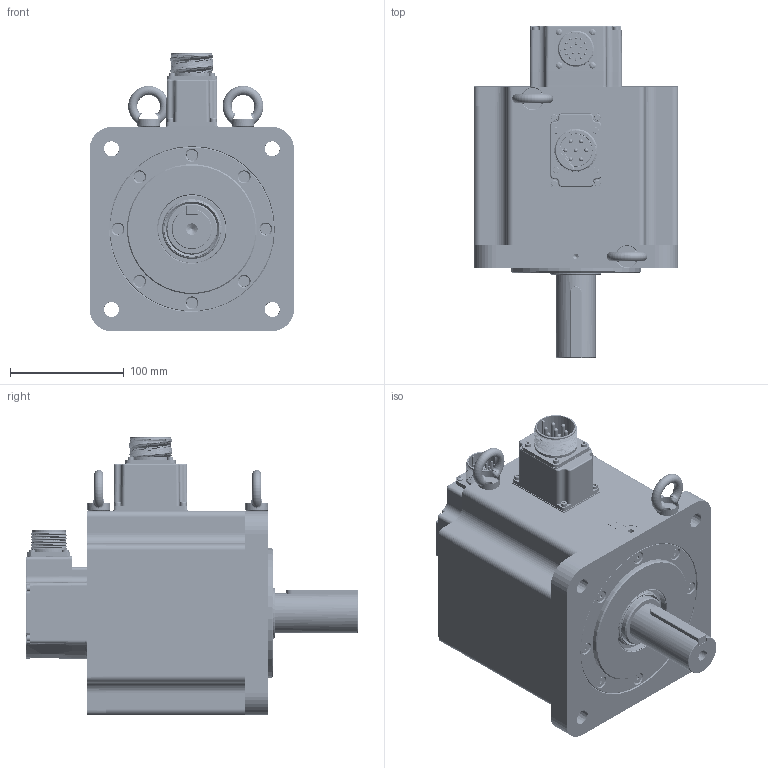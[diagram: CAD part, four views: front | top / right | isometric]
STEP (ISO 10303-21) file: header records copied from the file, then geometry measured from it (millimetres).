
FILE_DESCRIPTION(/* description */ ('AdapterTestApp'),/* implementation_level */ '2;1');
FILE_NAME(/* name */ 'TCE180 6B XX 3 A1 0 C3',/* time_stamp */ '2015-09-16T12:32:12+02:00',/* author */ ('AdapterTestApp'),/* organization */ ('Siemens PLM Software'),/* preprocessor_version */ 'ST-DEVELOPER v15.6',/* originating_system */ 'DEX',/* authorisation */ $);
FILE_SCHEMA (('AUTOMOTIVE_DESIGN {1 0 10303 214 3 1 1}'));
Products named in the file (35): TCE180 6B XX 3 A1 0 C3_vuoto; 003251022004; 005123001580; 005911000216; 003103001503; 005911000493; 005911000479; 005204000003; 005123001110; 005204000001; back cover TCE100 + CN MIL; 001107000620; 003303000373; 005911000525; 003108015154; 005204000002; 005119001104; 003003199408; 005911000006; 005321000010; 003251022003; 005008000953; U5180002_vuoto; 003120002507; 005911000190; cap-M3 nudo; 003303000370; 003799000581; 005911000201; 003303000372; 007117001752; 005008000664; 005008000690; 003155002050; 005113001070
Assembly tree (66 placements, depth 3):
  TCE180 6B XX 3 A1 0 C3_vuoto
    003251022004
    005123001580
    005911000216  x4
    003103001503
    005911000493  x4
    005911000479  x8
    005204000003
    005123001110
    005204000001
    back cover TCE100 + CN MIL
      001107000620
      003303000373
      005911000525  x4
      003108015154
    005204000002
    005119001104
    003003199408
    005911000006  x8
    005321000010  x2
    003251022003
    005008000953
    U5180002_vuoto
      003120002507
      005911000190
      cap-M3 nudo
      003303000370
      003799000581
      005911000201  x8
      003303000372
      007117001752
    005008000664
    005008000690  x2
    003155002050
    005113001070
Bounding box: 180.3 x 292 x 245.3 mm (x, y, z)
Volume: 2637287.5 mm3; surface area: 656508.9 mm2
Topology: 80 solids, 87 shells, 2847 faces, 6983 edges, 4475 vertices
Faces by surface type: plane 1378, cylinder 709, cone 223, torus 183, bspline 182, extrusion 88, sphere 82, revolution 2
Full cylindrical faces by diameter (mm): 1.423 x1, 1.523 x1, 2 x34, 2.163 x1, 2.459 x21, 2.5 x1, 2.6 x1, 2.9 x4, 3 x30, 3.048 x4, 3.2 x1, 3.242 x6, 3.5 x15, 3.6 x7, 3.7 x4, 4 x9, 4.134 x24, 4.4 x15, 4.7 x8, 4.917 x2, 5 x16, 5.3 x1, 5.5 x15, 5.6 x4, 6 x7, 6.6 x6, 6.647 x22, 7 x8, 7.2 x1, 8 x16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
Entity records: 85702 total; most frequent: CARTESIAN_POINT 32670, DIRECTION 10488, ORIENTED_EDGE 10066, EDGE_CURVE 5033, AXIS2_PLACEMENT_3D 3912, VERTEX_POINT 3579, FACE_BOUND 3344, EDGE_LOOP 3284
